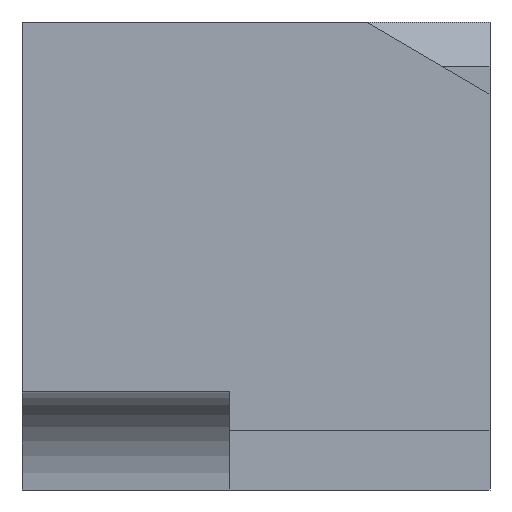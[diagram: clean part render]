
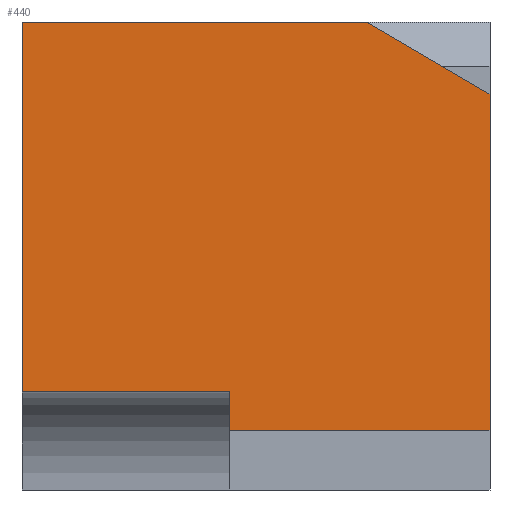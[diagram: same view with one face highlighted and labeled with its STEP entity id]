
A CAD part, left-side view. The second image highlights one B-rep face of the part: STEP entity #440.
In plain terms, the highlighted planar face has unit normal (-1, 0, 0).
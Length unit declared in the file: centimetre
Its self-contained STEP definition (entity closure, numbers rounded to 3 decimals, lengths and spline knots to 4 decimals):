
#24 = VERTEX_POINT ( 'NONE', #837 ) ;
#32 = VECTOR ( 'NONE', #674, 100. ) ;
#45 = EDGE_CURVE ( 'NONE', #824, #814, #561, .T. ) ;
#49 = FACE_OUTER_BOUND ( 'NONE', #249, .T. ) ;
#54 = LINE ( 'NONE', #353, #607 ) ;
#83 = EDGE_CURVE ( 'NONE', #24, #814, #406, .T. ) ;
#106 = ORIENTED_EDGE ( 'NONE', *, *, #489, .F. ) ;
#120 = VECTOR ( 'NONE', #216, 100. ) ;
#123 = CARTESIAN_POINT ( 'NONE',  ( 0., 0., 845.4381 ) ) ;
#133 = ORIENTED_EDGE ( 'NONE', *, *, #736, .T. ) ;
#141 = DIRECTION ( 'NONE',  ( 0., 0., -1. ) ) ;
#171 = VERTEX_POINT ( 'NONE', #483 ) ;
#173 = DIRECTION ( 'NONE',  ( 0., 0., 1. ) ) ;
#177 = ORIENTED_EDGE ( 'NONE', *, *, #531, .F. ) ;
#186 = VECTOR ( 'NONE', #555, 100. ) ;
#215 = DIRECTION ( 'NONE',  ( 0., -1., 0. ) ) ;
#216 = DIRECTION ( 'NONE',  ( 0., 0., -1. ) ) ;
#244 = ORIENTED_EDGE ( 'NONE', *, *, #83, .F. ) ;
#249 = EDGE_LOOP ( 'NONE', ( #370, #821, #177, #133, #397, #244, #106 ) ) ;
#274 = VECTOR ( 'NONE', #173, 100. ) ;
#291 = LINE ( 'NONE', #591, #663 ) ;
#298 = CARTESIAN_POINT ( 'NONE',  ( 0., 0., 127.9543 ) ) ;
#353 = CARTESIAN_POINT ( 'NONE',  ( 0., 0., 127.9543 ) ) ;
#370 = ORIENTED_EDGE ( 'NONE', *, *, #719, .F. ) ;
#397 = ORIENTED_EDGE ( 'NONE', *, *, #45, .T. ) ;
#399 = CARTESIAN_POINT ( 'NONE',  ( 0., 555.978, 209.7532 ) ) ;
#406 = LINE ( 'NONE', #849, #274 ) ;
#408 = VECTOR ( 'NONE', #141, 100. ) ;
#439 = CARTESIAN_POINT ( 'NONE',  ( 0., 1000., 1000. ) ) ;
#440 = ADVANCED_FACE ( 'NONE', ( #49 ), #890, .F. ) ;
#451 = LINE ( 'NONE', #753, #32 ) ;
#483 = CARTESIAN_POINT ( 'NONE',  ( 0., 263.4521, 1000. ) ) ;
#489 = EDGE_CURVE ( 'NONE', #739, #24, #54, .T. ) ;
#498 = CARTESIAN_POINT ( 'NONE',  ( 0., 555.978, 209.7532 ) ) ;
#518 = DIRECTION ( 'NONE',  ( 1., 0., 0. ) ) ;
#520 = CARTESIAN_POINT ( 'NONE',  ( 0., 0., 1000. ) ) ;
#531 = EDGE_CURVE ( 'NONE', #546, #171, #291, .T. ) ;
#546 = VERTEX_POINT ( 'NONE', #439 ) ;
#554 = EDGE_CURVE ( 'NONE', #171, #860, #451, .T. ) ;
#555 = DIRECTION ( 'NONE',  ( 0., -1., 0. ) ) ;
#561 = LINE ( 'NONE', #399, #186 ) ;
#591 = CARTESIAN_POINT ( 'NONE',  ( 0., 1000., 1000. ) ) ;
#607 = VECTOR ( 'NONE', #655, 100. ) ;
#655 = DIRECTION ( 'NONE',  ( 0., 1., 0. ) ) ;
#663 = VECTOR ( 'NONE', #215, 100. ) ;
#674 = DIRECTION ( 'NONE',  ( 0., -0.863, -0.506 ) ) ;
#719 = EDGE_CURVE ( 'NONE', #860, #739, #822, .T. ) ;
#736 = EDGE_CURVE ( 'NONE', #546, #824, #965, .T. ) ;
#739 = VERTEX_POINT ( 'NONE', #298 ) ;
#753 = CARTESIAN_POINT ( 'NONE',  ( 0., 263.4521, 1000. ) ) ;
#760 = CARTESIAN_POINT ( 'NONE',  ( 0., 1000., 1000. ) ) ;
#802 = CARTESIAN_POINT ( 'NONE',  ( 0., 1000., 1000. ) ) ;
#814 = VERTEX_POINT ( 'NONE', #498 ) ;
#819 = DIRECTION ( 'NONE',  ( 0., 0., -1. ) ) ;
#821 = ORIENTED_EDGE ( 'NONE', *, *, #554, .F. ) ;
#822 = LINE ( 'NONE', #520, #120 ) ;
#824 = VERTEX_POINT ( 'NONE', #870 ) ;
#837 = CARTESIAN_POINT ( 'NONE',  ( 0., 555.978, 127.9543 ) ) ;
#849 = CARTESIAN_POINT ( 'NONE',  ( 0., 555.978, 1000. ) ) ;
#860 = VERTEX_POINT ( 'NONE', #123 ) ;
#870 = CARTESIAN_POINT ( 'NONE',  ( 0., 1000., 209.7532 ) ) ;
#890 = PLANE ( 'NONE',  #922 ) ;
#922 = AXIS2_PLACEMENT_3D ( 'NONE', #802, #518, #819 ) ;
#965 = LINE ( 'NONE', #760, #408 ) ;
